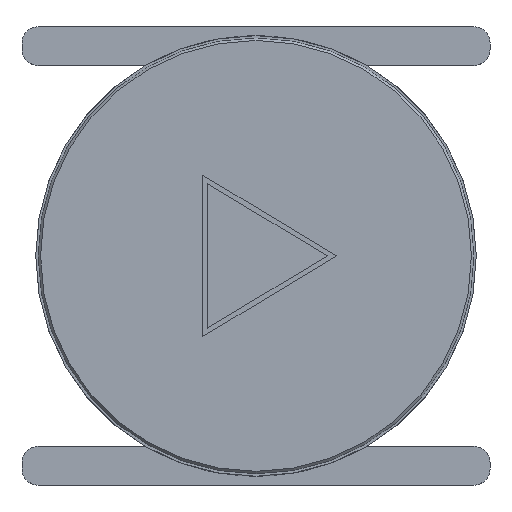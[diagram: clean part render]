
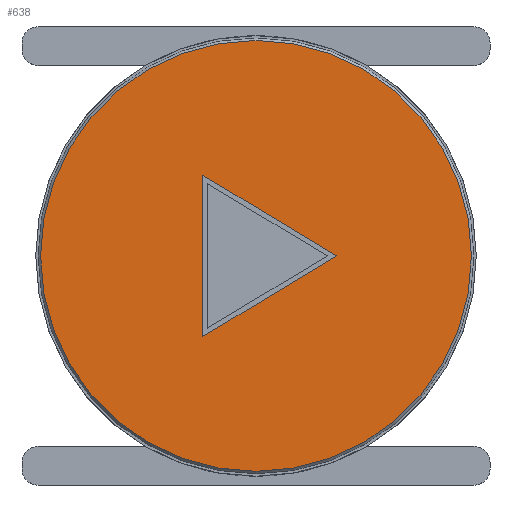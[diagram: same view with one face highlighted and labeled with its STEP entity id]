
A CAD part, top view. The second image highlights one B-rep face of the part: STEP entity #638.
In plain terms, the highlighted planar face has unit normal (0, 0, 1).
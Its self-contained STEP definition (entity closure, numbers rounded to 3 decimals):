
#18=FACE_BOUND('',#127,.T.);
#44=CIRCLE('',#713,13.35);
#88=FACE_OUTER_BOUND('',#126,.T.);
#126=EDGE_LOOP('',(#563));
#127=EDGE_LOOP('',(#564,#565,#566));
#179=LINE('',#1056,#241);
#188=LINE('',#1073,#250);
#191=LINE('',#1078,#253);
#241=VECTOR('',#866,10.);
#250=VECTOR('',#881,10.);
#253=VECTOR('',#886,10.);
#306=VERTEX_POINT('',#1054);
#307=VERTEX_POINT('',#1055);
#312=VERTEX_POINT('',#1072);
#314=VERTEX_POINT('',#1082);
#386=EDGE_CURVE('',#306,#307,#179,.T.);
#395=EDGE_CURVE('',#307,#312,#188,.T.);
#398=EDGE_CURVE('',#312,#306,#191,.T.);
#400=EDGE_CURVE('',#314,#314,#44,.T.);
#563=ORIENTED_EDGE('',*,*,#400,.T.);
#564=ORIENTED_EDGE('',*,*,#395,.T.);
#565=ORIENTED_EDGE('',*,*,#398,.T.);
#566=ORIENTED_EDGE('',*,*,#386,.T.);
#605=PLANE('',#712);
#638=ADVANCED_FACE('',(#88,#18),#605,.T.);
#712=AXIS2_PLACEMENT_3D('',#1081,#890,#891);
#713=AXIS2_PLACEMENT_3D('',#1083,#892,#893);
#866=DIRECTION('',(0.,1.,0.));
#881=DIRECTION('',(0.857,-0.516,0.));
#886=DIRECTION('',(-0.857,-0.516,0.));
#890=DIRECTION('center_axis',(0.,0.,1.));
#891=DIRECTION('ref_axis',(1.,0.,0.));
#892=DIRECTION('center_axis',(0.,0.,1.));
#893=DIRECTION('ref_axis',(1.,0.,0.));
#1054=CARTESIAN_POINT('',(-3.3,-52.,0.55));
#1055=CARTESIAN_POINT('',(-3.3,-42.,0.55));
#1056=CARTESIAN_POINT('',(-3.3,-44.5,0.55));
#1072=CARTESIAN_POINT('',(5.,-47.,0.55));
#1073=CARTESIAN_POINT('',(3.166,-45.895,0.55));
#1078=CARTESIAN_POINT('',(-0.984,-50.605,0.55));
#1081=CARTESIAN_POINT('Origin',(0.,-47.,0.55));
#1082=CARTESIAN_POINT('',(-13.35,-47.,0.55));
#1083=CARTESIAN_POINT('Origin',(0.,-47.,0.55));
